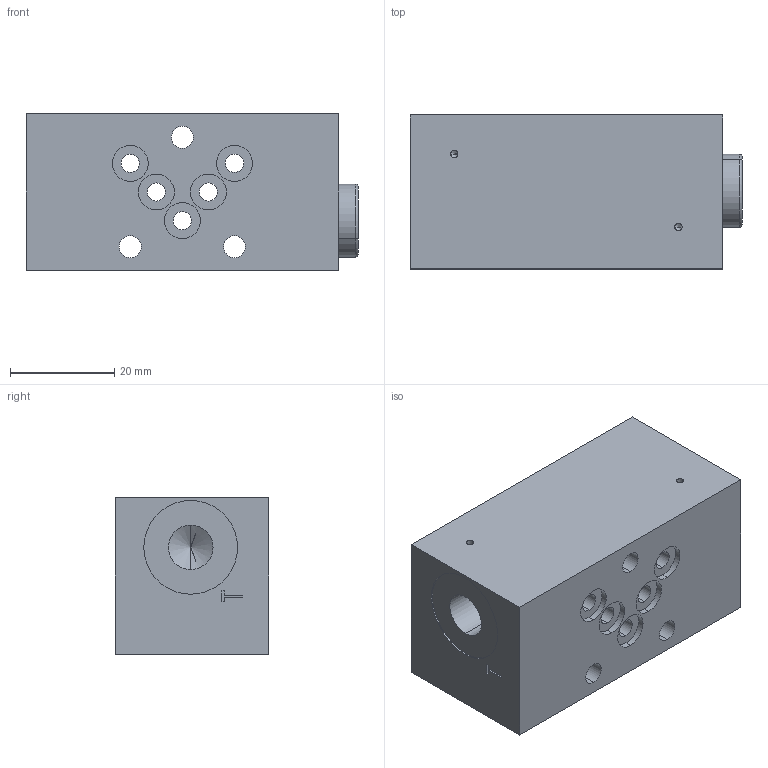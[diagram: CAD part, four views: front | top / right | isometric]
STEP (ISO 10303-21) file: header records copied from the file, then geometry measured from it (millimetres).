
FILE_DESCRIPTION (( 'STEP AP214' ), '1' );
FILE_NAME ('PGSA03-T.STEP', '2017-03-20T06:07:44', ( '' ), ( '' ), 'SwSTEP 2.0', 'SolidWorks 2016', '' );
FILE_SCHEMA (( 'AUTOMOTIVE_DESIGN' ));
Length unit declared in the file: millimetre
Products named in the file (1): PGSA03-T
Bounding box: 63.7 x 29.5 x 30 mm (x, y, z)
Volume: 49377.6 mm3; surface area: 13507.1 mm2
Topology: 3 solids, 3 shells, 117 faces, 278 edges, 175 vertices
Faces by surface type: cylinder 50, plane 45, cone 14, bspline 6, torus 2
Entity records: 5029 total; most frequent: CARTESIAN_POINT 935, DIRECTION 588, ORIENTED_EDGE 536, EDGE_CURVE 268, AXIS2_PLACEMENT_3D 220, VERTEX_POINT 175, EDGE_LOOP 153, VECTOR 148
